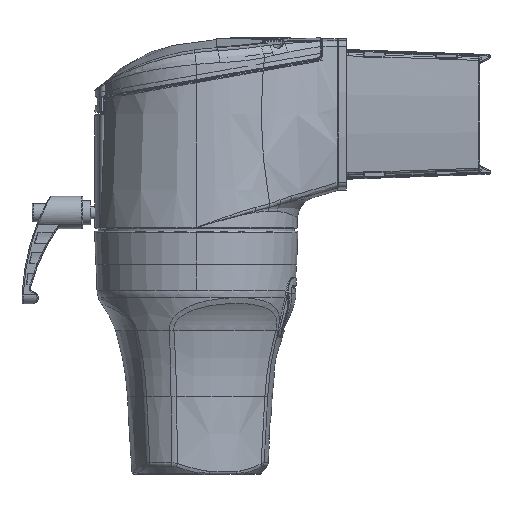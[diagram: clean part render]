
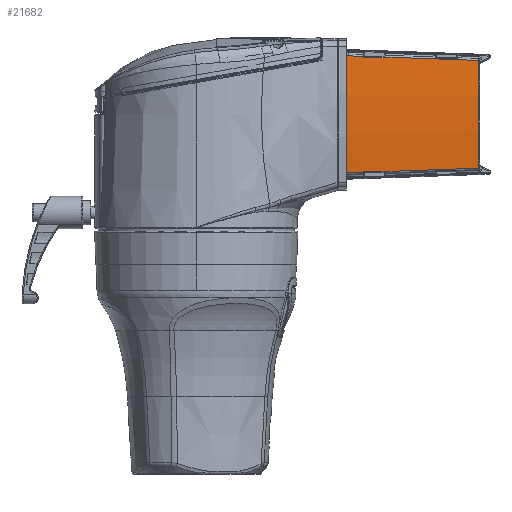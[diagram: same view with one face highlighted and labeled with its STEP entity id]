
A CAD part, top view. The second image highlights one B-rep face of the part: STEP entity #21682.
In plain terms, the highlighted cylindrical face has radius 249 mm (diameter 498 mm), a partial arc.
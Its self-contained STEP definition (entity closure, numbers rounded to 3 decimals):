
#6935=CARTESIAN_POINT('',(82.5,28.,20.114));
#6936=CARTESIAN_POINT('',(82.5,28.065,20.121));
#6937=CARTESIAN_POINT('',(82.526,28.196,20.136));
#6938=CARTESIAN_POINT('',(82.638,28.364,20.155));
#6939=CARTESIAN_POINT('',(82.805,28.475,20.168));
#6940=CARTESIAN_POINT('',(82.935,28.5,20.171));
#6941=CARTESIAN_POINT('',(83.,28.5,20.171));
#6946=CARTESIAN_POINT('',(71.,56.5,-227.25));
#6947=DIRECTION('',(1.,0.,0.));
#6948=DIRECTION('',(0.,0.116,0.993));
#6949=AXIS2_PLACEMENT_3D('',#6946,#6947,#6948);
#6954=DIRECTION('',(-1.,0.,0.));
#6955=VECTOR('',#6954,3.983);
#6956=CARTESIAN_POINT('',(74.983,85.366,20.071));
#6957=LINE('',#6956,#6955);
#6961=CARTESIAN_POINT('',(82.5,85.102,20.102));
#6962=CARTESIAN_POINT('',(81.262,85.146,20.097));
#6963=CARTESIAN_POINT('',(78.771,85.233,20.087));
#6964=CARTESIAN_POINT('',(76.25,85.321,20.076));
#6965=CARTESIAN_POINT('',(74.983,85.366,20.071));
#6970=CARTESIAN_POINT('',(82.5,56.5,-227.25));
#6971=DIRECTION('',(1.,0.,0.));
#6972=DIRECTION('',(0.,0.115,0.993));
#6973=AXIS2_PLACEMENT_3D('',#6970,#6971,#6972);
#6978=DIRECTION('',(1.,0.,0.));
#6979=VECTOR('',#6978,9.189);
#6980=CARTESIAN_POINT('',(83.,84.5,20.171));
#6981=LINE('',#6980,#6979);
#6985=CARTESIAN_POINT('',(92.643,84.747,20.143));
#6986=CARTESIAN_POINT('',(92.609,84.713,20.146));
#6987=CARTESIAN_POINT('',(92.576,84.68,20.15));
#6988=CARTESIAN_POINT('',(92.542,84.646,20.154));
#6993=CARTESIAN_POINT('',(139.5,83.104,20.325));
#6994=CARTESIAN_POINT('',(134.565,83.277,20.306));
#6995=CARTESIAN_POINT('',(124.516,83.629,20.268));
#6996=CARTESIAN_POINT('',(109.107,84.169,20.208));
#6997=CARTESIAN_POINT('',(98.213,84.551,20.165));
#6998=CARTESIAN_POINT('',(92.643,84.747,20.143));
#7003=CARTESIAN_POINT('',(139.5,56.5,-227.25));
#7004=DIRECTION('',(-1.,0.,0.));
#7005=DIRECTION('',(0.,-0.107,0.994));
#7006=AXIS2_PLACEMENT_3D('',#7003,#7004,#7005);
#7011=CARTESIAN_POINT('',(139.5,29.896,20.325));
#7012=CARTESIAN_POINT('',(134.564,29.723,20.306));
#7013=CARTESIAN_POINT('',(124.515,29.371,20.268));
#7014=CARTESIAN_POINT('',(109.107,28.831,20.208));
#7015=CARTESIAN_POINT('',(98.212,28.449,20.165));
#7016=CARTESIAN_POINT('',(92.643,28.253,20.143));
#7021=CARTESIAN_POINT('',(92.542,28.354,20.154));
#7022=CARTESIAN_POINT('',(92.576,28.32,20.15));
#7023=CARTESIAN_POINT('',(92.609,28.287,20.146));
#7024=CARTESIAN_POINT('',(92.643,28.253,20.143));
#7029=DIRECTION('',(1.,0.,0.));
#7030=VECTOR('',#7029,9.189);
#7031=CARTESIAN_POINT('',(83.,28.5,20.171));
#7032=LINE('',#7031,#7030);
#7036=CARTESIAN_POINT('',(82.5,56.5,-227.25));
#7037=DIRECTION('',(1.,0.,0.));
#7038=DIRECTION('',(0.,-0.114,0.993));
#7039=AXIS2_PLACEMENT_3D('',#7036,#7037,#7038);
#7044=CARTESIAN_POINT('',(82.5,27.898,20.102));
#7045=CARTESIAN_POINT('',(81.262,27.854,20.097));
#7046=CARTESIAN_POINT('',(78.771,27.767,20.087));
#7047=CARTESIAN_POINT('',(76.25,27.679,20.076));
#7048=CARTESIAN_POINT('',(74.983,27.634,20.071));
#7053=DIRECTION('',(-1.,0.,0.));
#7054=VECTOR('',#7053,3.983);
#7055=CARTESIAN_POINT('',(74.983,27.634,20.071));
#7056=LINE('',#7055,#7054);
#7228=CARTESIAN_POINT('',(83.,84.5,20.171));
#7229=CARTESIAN_POINT('',(82.935,84.5,20.171));
#7230=CARTESIAN_POINT('',(82.805,84.525,20.168));
#7231=CARTESIAN_POINT('',(82.636,84.638,20.155));
#7232=CARTESIAN_POINT('',(82.526,84.805,20.136));
#7233=CARTESIAN_POINT('',(82.5,84.935,20.121));
#7234=CARTESIAN_POINT('',(82.5,85.,20.114));
#7284=CARTESIAN_POINT('',(92.542,84.646,20.154));
#7285=CARTESIAN_POINT('',(92.496,84.6,20.159));
#7286=CARTESIAN_POINT('',(92.385,84.526,20.168));
#7287=CARTESIAN_POINT('',(92.254,84.5,20.171));
#7288=CARTESIAN_POINT('',(92.189,84.5,20.171));
#7473=CARTESIAN_POINT('',(82.5,85.102,20.102));
#7490=CARTESIAN_POINT('',(74.983,85.366,20.071));
#7495=CARTESIAN_POINT('',(139.5,83.104,20.325));
#7514=CARTESIAN_POINT('',(92.643,84.747,20.143));
#12375=CARTESIAN_POINT('',(82.5,27.898,20.102));
#12412=CARTESIAN_POINT('',(92.643,28.253,20.143));
#12438=CARTESIAN_POINT('',(74.983,27.634,20.071));
#12579=CARTESIAN_POINT('',(92.189,28.5,20.171));
#12580=CARTESIAN_POINT('',(92.254,28.5,20.171));
#12581=CARTESIAN_POINT('',(92.385,28.474,20.168));
#12582=CARTESIAN_POINT('',(92.496,28.4,20.159));
#12583=CARTESIAN_POINT('',(92.542,28.354,20.154));
#13873=VERTEX_POINT('',#7490);
#13877=VERTEX_POINT('',#12438);
#13932=VERTEX_POINT('',#7473);
#13933=VERTEX_POINT('',#7514);
#13934=VERTEX_POINT('',#12375);
#13935=VERTEX_POINT('',#12412);
#14056=CARTESIAN_POINT('',(83.,84.5,20.171));
#14057=CARTESIAN_POINT('',(92.189,84.5,20.171));
#14058=VERTEX_POINT('',#14056);
#14059=VERTEX_POINT('',#14057);
#14060=CARTESIAN_POINT('',(82.5,85.,20.114));
#14061=VERTEX_POINT('',#14060);
#14062=VERTEX_POINT('',#6988);
#14063=CARTESIAN_POINT('',(82.5,28.,20.114));
#14064=VERTEX_POINT('',#14063);
#14065=CARTESIAN_POINT('',(83.,28.5,20.171));
#14066=CARTESIAN_POINT('',(92.189,28.5,20.171));
#14067=VERTEX_POINT('',#14065);
#14068=VERTEX_POINT('',#14066);
#14069=VERTEX_POINT('',#7021);
#14240=VERTEX_POINT('',#7495);
#14242=CARTESIAN_POINT('',(139.5,29.896,20.325));
#14243=VERTEX_POINT('',#14242);
#14397=CARTESIAN_POINT('',(71.,85.366,20.071));
#14398=VERTEX_POINT('',#14397);
#14401=CARTESIAN_POINT('',(71.,27.634,20.071));
#14402=VERTEX_POINT('',#14401);
#21642=CARTESIAN_POINT('',(70.,56.5,-227.25));
#21643=DIRECTION('',(1.,0.,0.));
#21644=DIRECTION('',(0.,0.,-1.));
#21645=AXIS2_PLACEMENT_3D('',#21642,#21643,#21644);
#21646=CYLINDRICAL_SURFACE('',#21645,249.);
#21647=ORIENTED_EDGE('',*,*,#20702,.F.);
#21649=ORIENTED_EDGE('',*,*,#21648,.F.);
#21651=ORIENTED_EDGE('',*,*,#21650,.F.);
#21653=ORIENTED_EDGE('',*,*,#21652,.T.);
#21655=ORIENTED_EDGE('',*,*,#21654,.F.);
#21657=ORIENTED_EDGE('',*,*,#21656,.T.);
#21659=ORIENTED_EDGE('',*,*,#21658,.F.);
#21661=ORIENTED_EDGE('',*,*,#21660,.F.);
#21663=ORIENTED_EDGE('',*,*,#21662,.F.);
#21665=ORIENTED_EDGE('',*,*,#21664,.F.);
#21667=ORIENTED_EDGE('',*,*,#21666,.T.);
#21669=ORIENTED_EDGE('',*,*,#21668,.F.);
#21671=ORIENTED_EDGE('',*,*,#21670,.F.);
#21673=ORIENTED_EDGE('',*,*,#21672,.F.);
#21674=ORIENTED_EDGE('',*,*,#21635,.F.);
#21675=ORIENTED_EDGE('',*,*,#21595,.T.);
#21677=ORIENTED_EDGE('',*,*,#21676,.T.);
#21679=ORIENTED_EDGE('',*,*,#21678,.T.);
#21680=EDGE_LOOP('',(#21647,#21649,#21651,#21653,#21655,#21657,#21659,#21661,
#21663,#21665,#21667,#21669,#21671,#21673,#21674,#21675,#21677,#21679));
#21681=FACE_OUTER_BOUND('',#21680,.F.);
#6942=B_SPLINE_CURVE_WITH_KNOTS('',3,(#6935,#6936,#6937,#6938,#6939,#6940,
#6941),.UNSPECIFIED.,.F.,.F.,(4,1,1,1,4),(0.,0.25,0.5,0.75,1.),
.UNSPECIFIED.);
#6950=CIRCLE('',#6949,249.);
#6966=B_SPLINE_CURVE_WITH_KNOTS('',3,(#6961,#6962,#6963,#6964,#6965),
.UNSPECIFIED.,.F.,.F.,(4,1,4),(0.,0.5,1.),.UNSPECIFIED.);
#6974=CIRCLE('',#6973,249.);
#6989=B_SPLINE_CURVE_WITH_KNOTS('',3,(#6985,#6986,#6987,#6988),.UNSPECIFIED.,
.F.,.F.,(4,4),(0.,1.),.UNSPECIFIED.);
#6999=B_SPLINE_CURVE_WITH_KNOTS('',3,(#6993,#6994,#6995,#6996,#6997,#6998),
.UNSPECIFIED.,.F.,.F.,(4,1,1,4),(0.,0.333,0.667,1.),
.UNSPECIFIED.);
#7007=CIRCLE('',#7006,249.);
#7017=B_SPLINE_CURVE_WITH_KNOTS('',3,(#7011,#7012,#7013,#7014,#7015,#7016),
.UNSPECIFIED.,.F.,.F.,(4,1,1,4),(0.,0.333,0.667,1.),
.UNSPECIFIED.);
#7025=B_SPLINE_CURVE_WITH_KNOTS('',3,(#7021,#7022,#7023,#7024),.UNSPECIFIED.,
.F.,.F.,(4,4),(0.,1.),.UNSPECIFIED.);
#7040=CIRCLE('',#7039,249.);
#7049=B_SPLINE_CURVE_WITH_KNOTS('',3,(#7044,#7045,#7046,#7047,#7048),
.UNSPECIFIED.,.F.,.F.,(4,1,4),(0.,0.5,1.),.UNSPECIFIED.);
#7235=B_SPLINE_CURVE_WITH_KNOTS('',3,(#7228,#7229,#7230,#7231,#7232,#7233,
#7234),.UNSPECIFIED.,.F.,.F.,(4,1,1,1,4),(0.,0.25,0.5,0.75,1.),
.UNSPECIFIED.);
#7289=B_SPLINE_CURVE_WITH_KNOTS('',3,(#7284,#7285,#7286,#7287,#7288),
.UNSPECIFIED.,.F.,.F.,(4,1,4),(0.,0.5,1.),.UNSPECIFIED.);
#12584=B_SPLINE_CURVE_WITH_KNOTS('',3,(#12579,#12580,#12581,#12582,#12583),
.UNSPECIFIED.,.F.,.F.,(4,1,4),(0.,0.5,1.),.UNSPECIFIED.);
#20702=EDGE_CURVE('',#14398,#14402,#6950,.T.);
#21595=EDGE_CURVE('',#14064,#13934,#7040,.T.);
#21635=EDGE_CURVE('',#14064,#14067,#6942,.T.);
#21648=EDGE_CURVE('',#13873,#14398,#6957,.T.);
#21650=EDGE_CURVE('',#13932,#13873,#6966,.T.);
#21652=EDGE_CURVE('',#13932,#14061,#6974,.T.);
#21654=EDGE_CURVE('',#14058,#14061,#7235,.T.);
#21656=EDGE_CURVE('',#14058,#14059,#6981,.T.);
#21658=EDGE_CURVE('',#14062,#14059,#7289,.T.);
#21660=EDGE_CURVE('',#13933,#14062,#6989,.T.);
#21662=EDGE_CURVE('',#14240,#13933,#6999,.T.);
#21664=EDGE_CURVE('',#14243,#14240,#7007,.T.);
#21666=EDGE_CURVE('',#14243,#13935,#7017,.T.);
#21668=EDGE_CURVE('',#14069,#13935,#7025,.T.);
#21670=EDGE_CURVE('',#14068,#14069,#12584,.T.);
#21672=EDGE_CURVE('',#14067,#14068,#7032,.T.);
#21676=EDGE_CURVE('',#13934,#13877,#7049,.T.);
#21678=EDGE_CURVE('',#13877,#14402,#7056,.T.);
#21682=ADVANCED_FACE('',(#21681),#21646,.T.);
